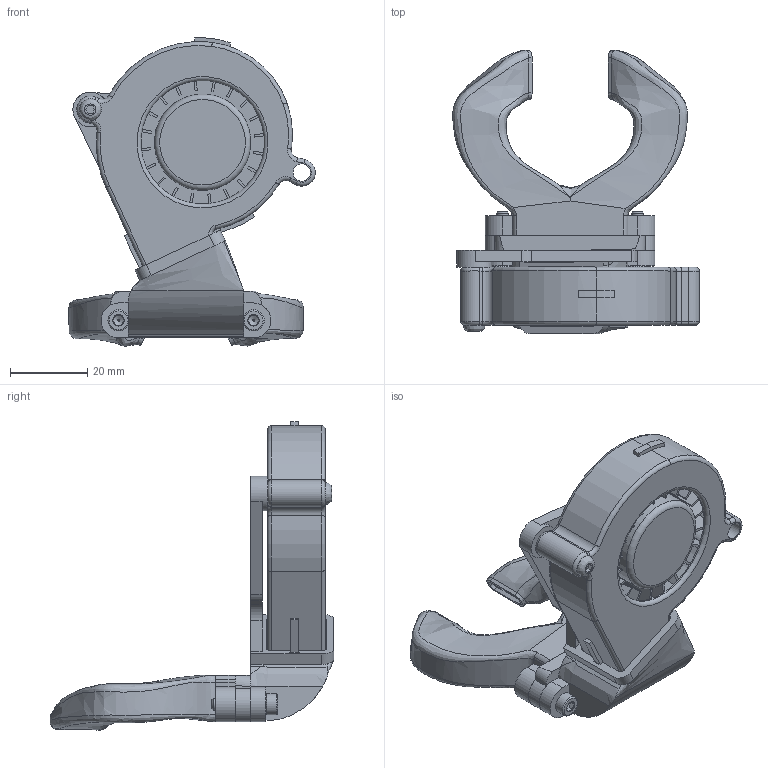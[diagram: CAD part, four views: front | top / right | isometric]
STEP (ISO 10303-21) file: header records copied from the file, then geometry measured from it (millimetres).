
FILE_DESCRIPTION(/* description */ (''),/* implementation_level */ '2;1');
FILE_NAME(/* name */ 'New fan duct Standard rod.step',/* time_stamp */ '2026-07-08T02:01:15+02:00',/* author */ (''),/* organization */ (''),/* preprocessor_version */ 'ST-DEVELOPER v20.1',/* originating_system */ 'Autodesk Translation Framework v15.8.0.0',/* authorisation */ '');
FILE_SCHEMA (('AUTOMOTIVE_DESIGN { 1 0 10303 214 3 1 1 }'));
Products named in the file (6): New fan duct Standard rod; Hardware; Knurled Insert M3xH4; M3x14-Screw089; VITE_TESTA_BOMBATA_ESAGONO_INCASSATO; 5015 fan
Assembly tree (9 placements, depth 3):
  New fan duct Standard rod
    Hardware
      Knurled Insert M3xH4  x3
      M3x14-Screw089  x3
      VITE_TESTA_BOMBATA_ESAGONO_INCASSATO
    5015 fan
Bounding box: 63.94 x 73.55 x 79.98 mm (x, y, z)
Volume: 28511.2 mm3; surface area: 37057.2 mm2
Topology: 11 solids, 11 shells, 1019 faces, 2691 edges, 1669 vertices
Faces by surface type: plane 384, bspline 329, cylinder 224, cone 45, torus 36, sphere 1
Full cylindrical faces by diameter (mm): 2.459 x3, 3 x4, 3.2 x2, 3.3 x5, 3.734 x6, 4 x3, 4.5 x2, 5.5 x3, 6.5 x3, 9 x1, 19.703 x1, 25 x1, 32 x1, 40.6 x1
Entity records: 330447 total; most frequent: CARTESIAN_POINT 312731, ORIENTED_EDGE 4114, DIRECTION 2992, EDGE_CURVE 2057, VERTEX_POINT 1327, AXIS2_PLACEMENT_3D 1077, LINE 838, VECTOR 838
